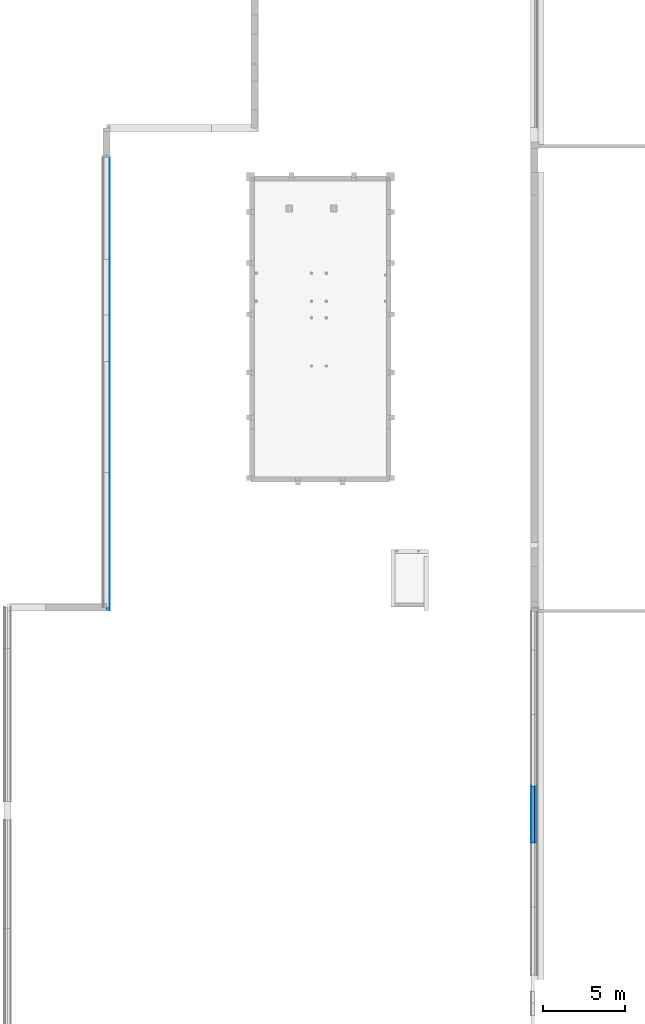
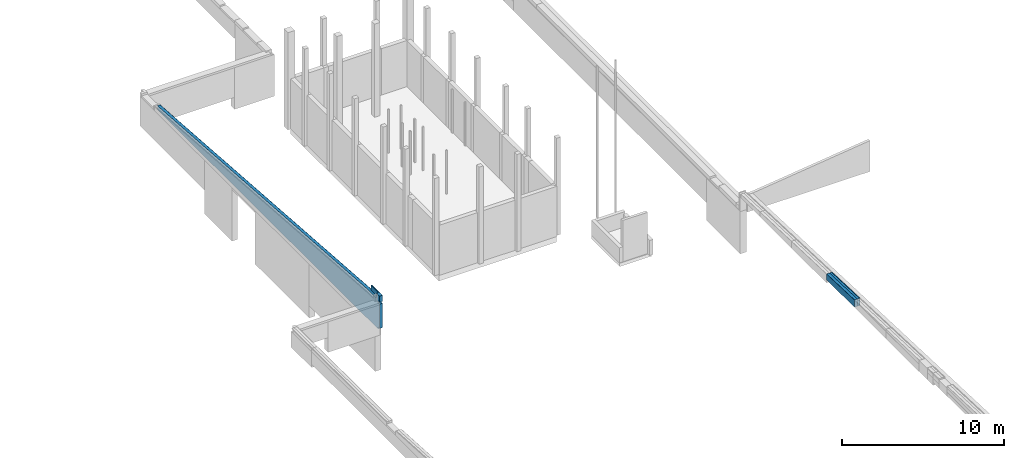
# One storey, part 13 of 17: 6 building element parts, 2 elements without a shape of their own.
"""IFC2X3 building model written with IfcOpenShell, lengths in millimetres."""

from ifc_helpers import new_model, entity, si_unit, converted_unit, derived_unit, money_unit, direction, frame, origin_with_axes, place, context, subcontext, project, spatial, polyline, outline, extrude, boolean, faceted_brep, material, type_object, element, aggregate, save


model = new_model("IFC2X3")

# Units and contexts
model_context = context("Model", 3, precision=0.01, world=origin_with_axes(), true_north=direction((0.0, 1.0)))
body_context = subcontext(model_context, "Body", "Model", "MODEL_VIEW")
ifc_project = project(units=[si_unit("LENGTHUNIT", "METRE", prefix="MILLI"), si_unit("AREAUNIT", "SQUARE_METRE"), si_unit("VOLUMEUNIT", "CUBIC_METRE"), converted_unit("PLANEANGLEUNIT", "DEGREE", entity("IfcPlaneAngleMeasure", 0.0174532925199), si_unit("PLANEANGLEUNIT", "RADIAN"), dimensions=[0, 0, 0, 0, 0, 0, 0]), si_unit("SOLIDANGLEUNIT", "STERADIAN"), money_unit("EUR"), converted_unit("TIMEUNIT", "Year", entity("IfcTimeMeasure", 31556926.0), si_unit("TIMEUNIT", "SECOND"), dimensions=[0, 0, 1, 0, 0, 0, 0]), si_unit("MASSUNIT", "GRAM", prefix="KILO"), si_unit("THERMODYNAMICTEMPERATUREUNIT", "DEGREE_CELSIUS"), si_unit("LUMINOUSINTENSITYUNIT", "LUMEN"), si_unit("ENERGYUNIT", "JOULE", prefix="MEGA"), derived_unit("THERMALCONDUCTANCEUNIT", [(si_unit("POWERUNIT", "WATT"), 1), (si_unit("LENGTHUNIT", "METRE"), -1), (si_unit("THERMODYNAMICTEMPERATUREUNIT", "KELVIN"), -1)]), derived_unit("SPECIFICHEATCAPACITYUNIT", [(si_unit("ENERGYUNIT", "JOULE"), 1), (si_unit("MASSUNIT", "GRAM", prefix="KILO"), -1), (si_unit("THERMODYNAMICTEMPERATUREUNIT", "KELVIN"), -1)]), derived_unit("MASSDENSITYUNIT", [(si_unit("MASSUNIT", "GRAM", prefix="KILO"), 1), (si_unit("VOLUMEUNIT", "CUBIC_METRE"), -1)])], contexts=[model_context])

# Site, building, storey
site_placement = place(None, origin_with_axes())
site = spatial("IfcSite", under=ifc_project, at=site_placement, Name="Puškini 31, Narva", CompositionType="ELEMENT")
building_placement = place(site_placement, origin_with_axes())
building = spatial("IfcBuilding", under=site, at=building_placement, Name="Narva Riigigümnaasium", CompositionType="ELEMENT")
storey_placement = place(building_placement, frame((0.0, 0.0, -6800.0), z_axis=(0.0, 0.0, 1.0), x_axis=(1.0, 0.0, 0.0)))
storey = spatial("IfcBuildingStorey", under=building, at=storey_placement, Name="0.korrus -6.8", CompositionType="ELEMENT", Elevation=-6800.0)

# Wall, building element parts
wall_type = type_object("IfcWallType", Name="G-VS-02 420", PredefinedType="NOTDEFINED")
wall_1_placement = place(storey_placement, frame((54200.000001, 184040.0, 4630.0), z_axis=(0.0, 0.0, 1.0), x_axis=(0.0, -1.0, 0.0)))
wall_1 = element("IfcWall", 1, at=wall_1_placement, inside=storey, type_object=wall_type, Name="Sisesein")
ifc_material_1 = material(Name="Salto-siseviimistlus")
building_element_part_1_placement = place(wall_1_placement, origin_with_axes())
building_element_part_1 = element("IfcBuildingElementPart", 2, at=building_element_part_1_placement, material=ifc_material_1, Name="Salto-siseviimistlus", context=body_context, shape_type="CSG", body=[
    boolean("DIFFERENCE", boolean("DIFFERENCE", boolean("DIFFERENCE", boolean("DIFFERENCE", boolean("DIFFERENCE", extrude(outline(polyline([(0.0, -210.0), (3454.84872819, -210.0), (3454.84872819, -200.0), (0.0, -200.0), (0.0, -210.0)])), origin_with_axes(), (0.0, 0.0, 1.0), 577.017657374), faceted_brep([(3454.84872819, -200.0, 540.0), (2926.61023797, -200.0, 540.0), (0.0, -200.0, 427.970114), (0.0, -200.0, 577.017657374), (3454.84872819, -200.0, 577.017657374), (3454.84872819, -210.0, 540.0), (2926.61023797, -210.0, 540.0), (0.0, -210.0, 427.970114), (0.0, -210.0, 577.017657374), (3454.84872819, -210.0, 577.017657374)], [[[0, 1, 2, 3, 4]], [[1, 0, 5, 6]], [[7, 2, 1, 6]], [[2, 7, 8, 3]], [[3, 8, 9, 4]], [[5, 0, 4, 9]], [[6, 5, 9, 8, 7]]])), faceted_brep([(3454.84872819, 0.0, 560.220833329), (0.0, 0.0, 427.970114), (0.0, 0.0, 577.017657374), (3454.84872819, 0.0, 577.017657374), (0.0, -200.0, 427.970114), (3454.84872819, -200.0, 560.220833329), (2926.61023797, -200.0, 540.0), (0.0, -200.0, 577.017657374), (3454.84872819, -200.0, 577.017657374)], [[[0, 1, 2, 3]], [[4, 1, 0, 5, 6]], [[1, 4, 7, 2]], [[2, 7, 8, 3]], [[5, 0, 3, 8]], [[6, 5, 8, 7, 4]]])), faceted_brep([(3454.84872819, 150.0, 560.220833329), (0.0, 150.0, 427.970114), (0.0, 150.0, 577.017657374), (3454.84872819, 150.0, 577.017657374), (0.0, 0.0, 427.970114), (3454.84872819, 0.0, 560.220833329), (0.0, 0.0, 577.017657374), (3454.84872819, 0.0, 577.017657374)], [[[0, 1, 2, 3]], [[4, 1, 0, 5]], [[1, 4, 6, 2]], [[2, 6, 7, 3]], [[5, 0, 3, 7]], [[4, 5, 7, 6]]])), faceted_brep([(3454.84872819, 200.0, 560.220833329), (0.0, 200.0, 427.970114), (0.0, 200.0, 577.017657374), (3454.84872819, 200.0, 577.017657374), (0.0, 150.0, 427.970114), (3454.84872819, 150.0, 560.220833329), (0.0, 150.0, 577.017657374), (3454.84872819, 150.0, 577.017657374)], [[[0, 1, 2, 3]], [[4, 1, 0, 5]], [[1, 4, 6, 2]], [[2, 6, 7, 3]], [[5, 0, 3, 7]], [[4, 5, 7, 6]]])), faceted_brep([(3454.84872819, 210.0, 560.220833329), (0.0, 210.0, 427.970114), (0.0, 210.0, 577.017657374), (3454.84872819, 210.0, 577.017657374), (0.0, 200.0, 427.970114), (3454.84872819, 200.0, 560.220833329), (0.0, 200.0, 577.017657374), (3454.84872819, 200.0, 577.017657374)], [[[0, 1, 2, 3]], [[4, 1, 0, 5]], [[1, 4, 6, 2]], [[2, 6, 7, 3]], [[5, 0, 3, 7]], [[4, 5, 7, 6]]])),
])
ifc_material_2 = material(Name="Betoon element")
building_element_part_2_placement = place(wall_1_placement, origin_with_axes())
building_element_part_2 = element("IfcBuildingElementPart", 3, at=building_element_part_2_placement, material=ifc_material_2, Name="Betoon element", context=body_context, shape_type="CSG", body=[
    boolean("DIFFERENCE", boolean("DIFFERENCE", boolean("DIFFERENCE", boolean("DIFFERENCE", boolean("DIFFERENCE", extrude(outline(polyline([(0.0, -200.0), (3454.84872819, -200.0), (3454.84872819, 0.0), (0.0, 0.0), (0.0, -200.0)])), origin_with_axes(), (0.0, 0.0, 1.0), 577.017657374), faceted_brep([(3454.84872819, -200.0, 540.0), (2926.61023797, -200.0, 540.0), (0.0, -200.0, 427.970114), (0.0, -200.0, 577.017657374), (3454.84872819, -200.0, 577.017657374), (3454.84872819, -210.0, 540.0), (2926.61023797, -210.0, 540.0), (0.0, -210.0, 427.970114), (0.0, -210.0, 577.017657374), (3454.84872819, -210.0, 577.017657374)], [[[0, 1, 2, 3, 4]], [[1, 0, 5, 6]], [[7, 2, 1, 6]], [[2, 7, 8, 3]], [[3, 8, 9, 4]], [[5, 0, 4, 9]], [[6, 5, 9, 8, 7]]])), faceted_brep([(3454.84872819, 0.0, 560.220833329), (0.0, 0.0, 427.970114), (0.0, 0.0, 577.017657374), (3454.84872819, 0.0, 577.017657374), (0.0, -200.0, 427.970114), (3454.84872819, -200.0, 560.220833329), (2926.61023797, -200.0, 540.0), (0.0, -200.0, 577.017657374), (3454.84872819, -200.0, 577.017657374)], [[[0, 1, 2, 3]], [[4, 1, 0, 5, 6]], [[1, 4, 7, 2]], [[2, 7, 8, 3]], [[5, 0, 3, 8]], [[6, 5, 8, 7, 4]]])), faceted_brep([(3454.84872819, 150.0, 560.220833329), (0.0, 150.0, 427.970114), (0.0, 150.0, 577.017657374), (3454.84872819, 150.0, 577.017657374), (0.0, 0.0, 427.970114), (3454.84872819, 0.0, 560.220833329), (0.0, 0.0, 577.017657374), (3454.84872819, 0.0, 577.017657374)], [[[0, 1, 2, 3]], [[4, 1, 0, 5]], [[1, 4, 6, 2]], [[2, 6, 7, 3]], [[5, 0, 3, 7]], [[4, 5, 7, 6]]])), faceted_brep([(3454.84872819, 200.0, 560.220833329), (0.0, 200.0, 427.970114), (0.0, 200.0, 577.017657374), (3454.84872819, 200.0, 577.017657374), (0.0, 150.0, 427.970114), (3454.84872819, 150.0, 560.220833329), (0.0, 150.0, 577.017657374), (3454.84872819, 150.0, 577.017657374)], [[[0, 1, 2, 3]], [[4, 1, 0, 5]], [[1, 4, 6, 2]], [[2, 6, 7, 3]], [[5, 0, 3, 7]], [[4, 5, 7, 6]]])), faceted_brep([(3454.84872819, 210.0, 560.220833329), (0.0, 210.0, 427.970114), (0.0, 210.0, 577.017657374), (3454.84872819, 210.0, 577.017657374), (0.0, 200.0, 427.970114), (3454.84872819, 200.0, 560.220833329), (0.0, 200.0, 577.017657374), (3454.84872819, 200.0, 577.017657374)], [[[0, 1, 2, 3]], [[4, 1, 0, 5]], [[1, 4, 6, 2]], [[2, 6, 7, 3]], [[5, 0, 3, 7]], [[4, 5, 7, 6]]])),
])
ifc_material_3 = material(Name="Salto-PIR soojustus")
building_element_part_3_placement = place(wall_1_placement, origin_with_axes())
building_element_part_3 = element("IfcBuildingElementPart", 4, at=building_element_part_3_placement, material=ifc_material_3, Name="Salto-PIR soojustus", context=body_context, shape_type="CSG", body=[
    boolean("DIFFERENCE", boolean("DIFFERENCE", boolean("DIFFERENCE", boolean("DIFFERENCE", boolean("DIFFERENCE", extrude(outline(polyline([(0.0, 0.0), (3454.84872819, 0.0), (3454.84872819, 150.0), (0.0, 150.0), (0.0, 0.0)])), origin_with_axes(), (0.0, 0.0, 1.0), 577.017657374), faceted_brep([(3454.84872819, -200.0, 540.0), (2926.61023797, -200.0, 540.0), (0.0, -200.0, 427.970114), (0.0, -200.0, 577.017657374), (3454.84872819, -200.0, 577.017657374), (3454.84872819, -210.0, 540.0), (2926.61023797, -210.0, 540.0), (0.0, -210.0, 427.970114), (0.0, -210.0, 577.017657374), (3454.84872819, -210.0, 577.017657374)], [[[0, 1, 2, 3, 4]], [[1, 0, 5, 6]], [[7, 2, 1, 6]], [[2, 7, 8, 3]], [[3, 8, 9, 4]], [[5, 0, 4, 9]], [[6, 5, 9, 8, 7]]])), faceted_brep([(3454.84872819, 0.0, 560.220833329), (0.0, 0.0, 427.970114), (0.0, 0.0, 577.017657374), (3454.84872819, 0.0, 577.017657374), (0.0, -200.0, 427.970114), (3454.84872819, -200.0, 560.220833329), (2926.61023797, -200.0, 540.0), (0.0, -200.0, 577.017657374), (3454.84872819, -200.0, 577.017657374)], [[[0, 1, 2, 3]], [[4, 1, 0, 5, 6]], [[1, 4, 7, 2]], [[2, 7, 8, 3]], [[5, 0, 3, 8]], [[6, 5, 8, 7, 4]]])), faceted_brep([(3454.84872819, 150.0, 560.220833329), (0.0, 150.0, 427.970114), (0.0, 150.0, 577.017657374), (3454.84872819, 150.0, 577.017657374), (0.0, 0.0, 427.970114), (3454.84872819, 0.0, 560.220833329), (0.0, 0.0, 577.017657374), (3454.84872819, 0.0, 577.017657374)], [[[0, 1, 2, 3]], [[4, 1, 0, 5]], [[1, 4, 6, 2]], [[2, 6, 7, 3]], [[5, 0, 3, 7]], [[4, 5, 7, 6]]])), faceted_brep([(3454.84872819, 200.0, 560.220833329), (0.0, 200.0, 427.970114), (0.0, 200.0, 577.017657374), (3454.84872819, 200.0, 577.017657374), (0.0, 150.0, 427.970114), (3454.84872819, 150.0, 560.220833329), (0.0, 150.0, 577.017657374), (3454.84872819, 150.0, 577.017657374)], [[[0, 1, 2, 3]], [[4, 1, 0, 5]], [[1, 4, 6, 2]], [[2, 6, 7, 3]], [[5, 0, 3, 7]], [[4, 5, 7, 6]]])), faceted_brep([(3454.84872819, 210.0, 560.220833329), (0.0, 210.0, 427.970114), (0.0, 210.0, 577.017657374), (3454.84872819, 210.0, 577.017657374), (0.0, 200.0, 427.970114), (3454.84872819, 200.0, 560.220833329), (0.0, 200.0, 577.017657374), (3454.84872819, 200.0, 577.017657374)], [[[0, 1, 2, 3]], [[4, 1, 0, 5]], [[1, 4, 6, 2]], [[2, 6, 7, 3]], [[5, 0, 3, 7]], [[4, 5, 7, 6]]])),
])
building_element_part_4_placement = place(wall_1_placement, origin_with_axes())
building_element_part_4 = element("IfcBuildingElementPart", 5, at=building_element_part_4_placement, material=ifc_material_3, Name="Salto-PIR soojustus", context=body_context, shape_type="CSG", body=[
    boolean("DIFFERENCE", boolean("DIFFERENCE", boolean("DIFFERENCE", boolean("DIFFERENCE", boolean("DIFFERENCE", extrude(outline(polyline([(0.0, 150.0), (3454.84872819, 150.0), (3454.84872819, 200.0), (0.0, 200.0), (0.0, 150.0)])), origin_with_axes(), (0.0, 0.0, 1.0), 577.017657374), faceted_brep([(3454.84872819, -200.0, 540.0), (2926.61023797, -200.0, 540.0), (0.0, -200.0, 427.970114), (0.0, -200.0, 577.017657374), (3454.84872819, -200.0, 577.017657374), (3454.84872819, -210.0, 540.0), (2926.61023797, -210.0, 540.0), (0.0, -210.0, 427.970114), (0.0, -210.0, 577.017657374), (3454.84872819, -210.0, 577.017657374)], [[[0, 1, 2, 3, 4]], [[1, 0, 5, 6]], [[7, 2, 1, 6]], [[2, 7, 8, 3]], [[3, 8, 9, 4]], [[5, 0, 4, 9]], [[6, 5, 9, 8, 7]]])), faceted_brep([(3454.84872819, 0.0, 560.220833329), (0.0, 0.0, 427.970114), (0.0, 0.0, 577.017657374), (3454.84872819, 0.0, 577.017657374), (0.0, -200.0, 427.970114), (3454.84872819, -200.0, 560.220833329), (2926.61023797, -200.0, 540.0), (0.0, -200.0, 577.017657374), (3454.84872819, -200.0, 577.017657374)], [[[0, 1, 2, 3]], [[4, 1, 0, 5, 6]], [[1, 4, 7, 2]], [[2, 7, 8, 3]], [[5, 0, 3, 8]], [[6, 5, 8, 7, 4]]])), faceted_brep([(3454.84872819, 150.0, 560.220833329), (0.0, 150.0, 427.970114), (0.0, 150.0, 577.017657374), (3454.84872819, 150.0, 577.017657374), (0.0, 0.0, 427.970114), (3454.84872819, 0.0, 560.220833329), (0.0, 0.0, 577.017657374), (3454.84872819, 0.0, 577.017657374)], [[[0, 1, 2, 3]], [[4, 1, 0, 5]], [[1, 4, 6, 2]], [[2, 6, 7, 3]], [[5, 0, 3, 7]], [[4, 5, 7, 6]]])), faceted_brep([(3454.84872819, 200.0, 560.220833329), (0.0, 200.0, 427.970114), (0.0, 200.0, 577.017657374), (3454.84872819, 200.0, 577.017657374), (0.0, 150.0, 427.970114), (3454.84872819, 150.0, 560.220833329), (0.0, 150.0, 577.017657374), (3454.84872819, 150.0, 577.017657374)], [[[0, 1, 2, 3]], [[4, 1, 0, 5]], [[1, 4, 6, 2]], [[2, 6, 7, 3]], [[5, 0, 3, 7]], [[4, 5, 7, 6]]])), faceted_brep([(3454.84872819, 210.0, 560.220833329), (0.0, 210.0, 427.970114), (0.0, 210.0, 577.017657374), (3454.84872819, 210.0, 577.017657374), (0.0, 200.0, 427.970114), (3454.84872819, 200.0, 560.220833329), (0.0, 200.0, 577.017657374), (3454.84872819, 200.0, 577.017657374)], [[[0, 1, 2, 3]], [[4, 1, 0, 5]], [[1, 4, 6, 2]], [[2, 6, 7, 3]], [[5, 0, 3, 7]], [[4, 5, 7, 6]]])),
])
aggregate(wall_1, [building_element_part_1, building_element_part_2, building_element_part_3, building_element_part_4])

wall_2_placement = place(storey_placement, frame((28200.0401775, 222218.741711, 3350.0), z_axis=(0.0, 0.0, 1.0), x_axis=(0.0, -1.0, 0.0)))
wall_2 = element("IfcWall", 6, at=wall_2_placement, inside=storey, type_object=wall_type, Name="Sisesein")
building_element_part_5_placement = place(wall_2_placement, origin_with_axes())
solid_1 = boolean("DIFFERENCE", boolean("DIFFERENCE", boolean("DIFFERENCE", boolean("DIFFERENCE", boolean("DIFFERENCE", boolean("DIFFERENCE", boolean("DIFFERENCE", boolean("DIFFERENCE", extrude(outline(polyline([(0.0, 200.0), (27568.7417106, 200.0), (27568.7417106, 210.0), (0.0, 210.0), (0.0, 200.0)])), origin_with_axes(), (0.0, 0.0, 1.0), 2585.0), faceted_brep([(24143.7420091, 210.0, 149.0), (22983.7419947, 210.0, 149.0), (22983.7419947, 210.0, 150.0), (24143.7420091, 210.0, 150.0), (24143.7420091, 209.981881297, 149.0), (22983.7419947, 209.947273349, 149.0), (22983.7419947, 209.947273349, 150.0), (24143.7420091, 209.981881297, 150.0)], [[[0, 1, 2, 3]], [[1, 0, 4, 5]], [[2, 1, 5, 6]], [[3, 2, 6, 7]], [[0, 3, 7, 4]], [[6, 5, 4, 7]]])), faceted_brep([(17534.3056808, 210.0, 149.0), (16258.7420003, 210.0, 149.0), (16258.7420003, 210.0, 150.0), (17534.3056808, 210.0, 150.0), (17534.3056808, 209.784655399, 149.0), (16258.7420003, 209.746602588, 149.0), (16258.7420003, 209.746602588, 150.0), (17534.3056808, 209.784655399, 150.0)], [[[0, 1, 2, 3]], [[1, 0, 4, 5]], [[2, 1, 5, 6]], [[3, 2, 6, 7]], [[0, 3, 7, 4]], [[6, 5, 4, 7]]])), faceted_brep([(0.0, 200.0, 150.0), (0.0, 210.0, 150.0), (0.0, 210.0, 0.0), (0.0, 200.0, 0.0), (938.741711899, 210.0, 150.0), (938.741755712, 199.999997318, 150.0), (938.741755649, 209.289465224, 150.0), (27518.7417109, 210.0, 2130.0), (27518.7417109, 210.0, 2585.0), (27568.7417106, 210.0, 2585.0), (27568.7417106, 210.0, 0.0), (938.741755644, 210.0, 149.0), (938.741757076, 210.0, 140.0), (17568.7419679, 210.0, 140.0), (17568.7419679, 210.0, 149.0), (17568.7419679, 210.0, 150.0), (22958.7419947, 210.0, 150.0), (22958.7419947, 210.0, 140.0), (27318.7417106, 210.0, 140.0), (27318.7417106, 210.0, 150.000002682), (27518.7417109, 210.0, 150.000002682), (27518.7417109, 210.0, 1980.0), (27318.7417106, 210.0, 1980.0), (27318.7417106, 210.0, 2130.0), (27568.7417106, 200.0, 0.0), (27568.7417106, 200.0, 2585.0), (27518.7417109, 200.0, 2585.0), (27518.7417109, 200.0, 2130.0), (27318.7417106, 199.999997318, 2130.0), (27318.7417106, 199.999997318, 1980.0), (27518.7417109, 200.0, 1980.0), (27518.7417109, 199.999997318, 150.000002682), (27318.7417106, 199.999997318, 150.000002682), (27318.7417106, 199.999997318, 140.0), (22958.7419947, 199.999997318, 140.0), (22958.7419947, 199.999997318, 150.0), (17568.7419679, 199.999997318, 150.0), (17568.7419679, 199.999997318, 140.0), (938.741757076, 199.999997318, 140.0), (938.741755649, 209.289465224, 149.0), (17568.7419679, 209.785692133, 150.0), (17568.7419679, 209.785692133, 149.0)], [[[0, 1, 2, 3]], [[4, 1, 0, 5, 6]], [[7, 8, 9, 10, 2, 1, 4, 11, 12, 13, 14, 15, 16, 17, 18, 19, 20, 21, 22, 23]], [[24, 3, 2, 10]], [[5, 0, 3, 24, 25, 26, 27, 28, 29, 30, 31, 32, 33, 34, 35, 36, 37, 38]], [[12, 11, 39, 6, 5, 38]], [[11, 4, 6, 39]], [[26, 8, 7, 27]], [[8, 26, 25, 9]], [[25, 24, 10, 9]], [[13, 12, 38, 37]], [[14, 13, 37, 36, 40, 41]], [[15, 14, 41, 40]], [[16, 15, 40, 36, 35]], [[17, 16, 35, 34]], [[18, 17, 34, 33]], [[19, 18, 33, 32]], [[20, 19, 32, 31]], [[21, 20, 31, 30]], [[22, 21, 30, 29]], [[23, 22, 29, 28]], [[7, 23, 28, 27]]])), faceted_brep([(26218.9774093, 210.0, 2585.0), (26218.9774093, 210.0, 2224.59009685), (0.0, 210.0, 300.403404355), (0.0, 210.0, 2585.0), (26218.9774093, 200.0, 2585.0), (26218.9774093, 200.0, 2224.59009685), (0.0, 200.0, 300.403404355), (0.0, 200.0, 2585.0)], [[[0, 1, 2, 3]], [[1, 0, 4, 5]], [[6, 2, 1, 5]], [[2, 6, 7, 3]], [[4, 0, 3, 7]], [[5, 4, 7, 6]]])), faceted_brep([(27518.7417109, 200.0, 1980.0), (27318.7417106, 199.999997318, 1980.0), (27318.7417106, 199.999997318, 2130.0), (27518.7417109, 200.0, 2130.0), (27518.7417109, 200.0, 2585.0), (27568.7417106, 200.0, 2585.0), (27568.7417106, 200.0, 0.0), (27318.7417106, 199.999997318, 0.0), (27318.7417106, 199.999997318, 150.000002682), (27518.7417109, 199.999997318, 150.000002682), (27518.7417109, 0.0, 1980.0), (27318.7417109, 0.0, 1980.0), (27318.7417109, 0.0, 2130.0), (27518.7417109, 0.0, 2130.0), (27518.7417109, 0.0, 2585.0), (27568.7417106, 0.0, 2585.0), (27568.7417106, 0.0, 0.0), (27318.7417106, 0.0, 0.0), (27318.7417106, 0.0, 150.000002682), (27518.7417109, 0.0, 150.000002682)], [[[0, 1, 2, 3, 4, 5, 6, 7, 8, 9]], [[10, 11, 1, 0]], [[11, 12, 2, 1]], [[12, 13, 3, 2]], [[14, 4, 3, 13]], [[4, 14, 15, 5]], [[15, 16, 6, 5]], [[17, 7, 6, 16]], [[7, 17, 18, 8]], [[18, 19, 9, 8]], [[19, 10, 0, 9]], [[18, 17, 16, 15, 14, 13, 12, 11, 10, 19]]])), faceted_brep([(26218.9774093, 200.0, 2585.0), (26218.9774093, 200.0, 2224.59009685), (0.0, 200.0, 300.403404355), (0.0, 200.0, 2585.0), (26218.9774093, 123.503081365, 2585.0), (26218.9774093, 123.503081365, 2224.59009685), (0.0, 0.0, 300.403404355), (26218.9774093, 0.0, 2224.59009685), (0.0, 0.0, 2585.0), (27142.7417107, 0.0, 2585.0), (27142.7417107, 123.503081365, 2585.0), (27142.7417107, 123.503081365, 2224.59009685), (27142.7417107, 0.0, 2224.59009685)], [[[0, 1, 2, 3]], [[1, 0, 4, 5]], [[6, 2, 1, 5, 7]], [[2, 6, 8, 3]], [[4, 0, 3, 8, 9, 10]], [[4, 10, 11, 5]], [[12, 7, 5, 11]], [[12, 9, 8, 6, 7]], [[10, 9, 12, 11]]])), faceted_brep([(27318.7417109, 0.0, 1980.0), (27168.7417106, 0.0, 1980.0), (27168.7417106, 0.0, 2130.0), (27318.7417109, 0.0, 2130.0), (27318.7417109, 0.0, 2585.0), (27568.7417106, 0.0, 2585.0), (27568.7417106, 0.0, 0.0), (27318.7417106, 0.0, 0.0), (27318.7417109, -150.0, 1980.0), (27168.7417106, -150.0, 1980.0), (27168.7417106, -150.0, 2130.0), (27318.7417109, -150.0, 2130.0), (27318.7417109, -150.0, 2585.0), (27568.7417106, -150.0, 2585.0), (27568.7417106, -150.0, 0.0), (27318.7417106, -150.0, 0.0)], [[[0, 1, 2, 3, 4, 5, 6, 7]], [[1, 0, 8, 9]], [[2, 1, 9, 10]], [[3, 2, 10, 11]], [[12, 4, 3, 11]], [[4, 12, 13, 5]], [[13, 14, 6, 5]], [[15, 7, 6, 14]], [[0, 7, 15, 8]], [[8, 15, 14, 13, 12, 11, 10, 9]]])), faceted_brep([(27142.7417107, 0.0, 2224.59009685), (26218.9774093, 0.0, 2224.59009685), (0.0, 0.0, 300.403404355), (0.0, 0.0, 2585.0), (27142.7417107, 0.0, 2585.0), (27142.7417107, -150.0, 2224.59009685), (26218.9774093, -150.0, 2224.59009685), (0.0, -150.0, 300.403404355), (0.0, -150.0, 2585.0), (27142.7417107, -150.0, 2585.0)], [[[0, 1, 2, 3, 4]], [[1, 0, 5, 6]], [[7, 2, 1, 6]], [[2, 7, 8, 3]], [[9, 4, 3, 8]], [[0, 4, 9, 5]], [[5, 9, 8, 7, 6]]]))
building_element_part_5 = element("IfcBuildingElementPart", 7, at=building_element_part_5_placement, material=ifc_material_1, Name="Salto-siseviimistlus", context=body_context, shape_type="CSG", body=[
    boolean("DIFFERENCE", boolean("DIFFERENCE", boolean("DIFFERENCE", boolean("DIFFERENCE", solid_1, faceted_brep([(27168.7417106, -150.0, 1980.0), (27118.7417106, -150.0, 1980.0), (27118.7417106, -150.0, 2130.0), (27168.7417106, -150.0, 2130.0), (27318.7417109, -150.0, 2130.0), (27318.7417109, -150.0, 2585.0), (27568.7417106, -150.0, 2585.0), (27568.7417106, -150.0, 0.0), (27318.7417106, -150.0, 0.0), (27318.7417109, -150.0, 1980.0), (27318.7417109, -199.999998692, 1980.0), (27118.7417106, -199.999997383, 1980.0), (27118.7417106, -199.999997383, 2130.0), (27318.7417109, -199.999998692, 2130.0), (27318.7417109, -200.0, 2585.0), (27568.7417106, -200.0, 2585.0), (27568.7417106, -200.0, 0.0), (27318.7417106, -199.999997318, 0.0)], [[[0, 1, 2, 3, 4, 5, 6, 7, 8, 9]], [[1, 0, 9, 10, 11]], [[2, 1, 11, 12]], [[3, 2, 12, 13, 4]], [[14, 5, 4, 13]], [[5, 14, 15, 6]], [[15, 16, 7, 6]], [[17, 8, 7, 16]], [[9, 8, 17, 10]], [[10, 17, 16, 15, 14, 13, 12, 11]]])), faceted_brep([(27142.7417107, -150.0, 2224.59009685), (26218.9774093, -150.0, 2224.59009685), (0.0, -150.0, 300.403404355), (0.0, -150.0, 2585.0), (27142.7417107, -150.0, 2585.0), (27142.7417107, -200.0, 2224.59009685), (26218.9774093, -200.0, 2224.59009685), (0.0, -200.0, 300.403404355), (0.0, -200.0, 2585.0), (27142.7417107, -200.0, 2585.0)], [[[0, 1, 2, 3, 4]], [[1, 0, 5, 6]], [[7, 2, 1, 6]], [[2, 7, 8, 3]], [[9, 4, 3, 8]], [[0, 4, 9, 5]], [[5, 9, 8, 7, 6]]])), faceted_brep([(27108.7417106, -199.999997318, 1980.0), (27108.7417106, -199.999997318, 2130.0), (27318.7417109, -199.999998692, 2130.0), (27318.7417109, -200.0, 2585.0), (27568.7417106, -200.0, 2585.0), (27568.7417106, -200.0, 0.0), (27318.7417106, -199.999997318, 0.0), (27318.7417109, -199.999998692, 1980.0), (27108.7417106, -210.0, 1980.0), (27108.7417106, -210.0, 2130.0), (27318.7417109, -210.0, 2130.0), (27318.7417109, -210.0, 2585.0), (27568.7417106, -210.0, 2585.0), (27568.7417106, -210.0, 0.0), (27318.7417106, -210.0, 0.0), (27318.7417109, -210.0, 150.0), (27318.7417109, -210.0, 1980.0)], [[[0, 1, 2, 3, 4, 5, 6, 7]], [[1, 0, 8, 9]], [[1, 9, 10, 2]], [[11, 3, 2, 10]], [[3, 11, 12, 4]], [[12, 13, 5, 4]], [[14, 6, 5, 13]], [[6, 14, 15, 16, 7]], [[0, 7, 16, 8]], [[15, 14, 13, 12, 11, 10, 9, 8, 16]]])), faceted_brep([(27142.7417107, -200.0, 2224.59009685), (26218.9774093, -200.0, 2224.59009685), (0.0, -200.0, 300.403404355), (0.0, -200.0, 2585.0), (27142.7417107, -200.0, 2585.0), (27142.7417107, -210.0, 2224.59009685), (26218.9774093, -210.0, 2224.59009685), (0.0, -210.0, 300.403404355), (0.0, -210.0, 2585.0), (27142.7417107, -210.0, 2585.0)], [[[0, 1, 2, 3, 4]], [[1, 0, 5, 6]], [[7, 2, 1, 6]], [[2, 7, 8, 3]], [[9, 4, 3, 8]], [[0, 4, 9, 5]], [[5, 9, 8, 7, 6]]])),
])
building_element_part_6_placement = place(wall_2_placement, origin_with_axes())
solid_2 = boolean("DIFFERENCE", boolean("DIFFERENCE", boolean("DIFFERENCE", boolean("DIFFERENCE", boolean("DIFFERENCE", boolean("DIFFERENCE", boolean("DIFFERENCE", boolean("DIFFERENCE", extrude(outline(polyline([(0.0, 0.0), (27568.7417106, 0.0), (27568.7417106, 200.0), (0.0, 200.0), (0.0, 0.0)])), origin_with_axes(), (0.0, 0.0, 1.0), 2585.0), faceted_brep([(24143.7420091, 210.0, 149.0), (22983.7419947, 210.0, 149.0), (22983.7419947, 210.0, 150.0), (24143.7420091, 210.0, 150.0), (24143.7420091, 209.981881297, 149.0), (22983.7419947, 209.947273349, 149.0), (22983.7419947, 209.947273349, 150.0), (24143.7420091, 209.981881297, 150.0)], [[[0, 1, 2, 3]], [[1, 0, 4, 5]], [[2, 1, 5, 6]], [[3, 2, 6, 7]], [[0, 3, 7, 4]], [[6, 5, 4, 7]]])), faceted_brep([(17534.3056808, 210.0, 149.0), (16258.7420003, 210.0, 149.0), (16258.7420003, 210.0, 150.0), (17534.3056808, 210.0, 150.0), (17534.3056808, 209.784655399, 149.0), (16258.7420003, 209.746602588, 149.0), (16258.7420003, 209.746602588, 150.0), (17534.3056808, 209.784655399, 150.0)], [[[0, 1, 2, 3]], [[1, 0, 4, 5]], [[2, 1, 5, 6]], [[3, 2, 6, 7]], [[0, 3, 7, 4]], [[6, 5, 4, 7]]])), faceted_brep([(0.0, 200.0, 150.0), (0.0, 210.0, 150.0), (0.0, 210.0, 0.0), (0.0, 200.0, 0.0), (938.741711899, 210.0, 150.0), (938.741755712, 199.999997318, 150.0), (938.741755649, 209.289465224, 150.0), (27518.7417109, 210.0, 2130.0), (27518.7417109, 210.0, 2585.0), (27568.7417106, 210.0, 2585.0), (27568.7417106, 210.0, 0.0), (938.741755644, 210.0, 149.0), (938.741757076, 210.0, 140.0), (17568.7419679, 210.0, 140.0), (17568.7419679, 210.0, 149.0), (17568.7419679, 210.0, 150.0), (22958.7419947, 210.0, 150.0), (22958.7419947, 210.0, 140.0), (27318.7417106, 210.0, 140.0), (27318.7417106, 210.0, 150.000002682), (27518.7417109, 210.0, 150.000002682), (27518.7417109, 210.0, 1980.0), (27318.7417106, 210.0, 1980.0), (27318.7417106, 210.0, 2130.0), (27568.7417106, 200.0, 0.0), (27568.7417106, 200.0, 2585.0), (27518.7417109, 200.0, 2585.0), (27518.7417109, 200.0, 2130.0), (27318.7417106, 199.999997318, 2130.0), (27318.7417106, 199.999997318, 1980.0), (27518.7417109, 200.0, 1980.0), (27518.7417109, 199.999997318, 150.000002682), (27318.7417106, 199.999997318, 150.000002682), (27318.7417106, 199.999997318, 140.0), (22958.7419947, 199.999997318, 140.0), (22958.7419947, 199.999997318, 150.0), (17568.7419679, 199.999997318, 150.0), (17568.7419679, 199.999997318, 140.0), (938.741757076, 199.999997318, 140.0), (938.741755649, 209.289465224, 149.0), (17568.7419679, 209.785692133, 150.0), (17568.7419679, 209.785692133, 149.0)], [[[0, 1, 2, 3]], [[4, 1, 0, 5, 6]], [[7, 8, 9, 10, 2, 1, 4, 11, 12, 13, 14, 15, 16, 17, 18, 19, 20, 21, 22, 23]], [[24, 3, 2, 10]], [[5, 0, 3, 24, 25, 26, 27, 28, 29, 30, 31, 32, 33, 34, 35, 36, 37, 38]], [[12, 11, 39, 6, 5, 38]], [[11, 4, 6, 39]], [[26, 8, 7, 27]], [[8, 26, 25, 9]], [[25, 24, 10, 9]], [[13, 12, 38, 37]], [[14, 13, 37, 36, 40, 41]], [[15, 14, 41, 40]], [[16, 15, 40, 36, 35]], [[17, 16, 35, 34]], [[18, 17, 34, 33]], [[19, 18, 33, 32]], [[20, 19, 32, 31]], [[21, 20, 31, 30]], [[22, 21, 30, 29]], [[23, 22, 29, 28]], [[7, 23, 28, 27]]])), faceted_brep([(26218.9774093, 210.0, 2585.0), (26218.9774093, 210.0, 2224.59009685), (0.0, 210.0, 300.403404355), (0.0, 210.0, 2585.0), (26218.9774093, 200.0, 2585.0), (26218.9774093, 200.0, 2224.59009685), (0.0, 200.0, 300.403404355), (0.0, 200.0, 2585.0)], [[[0, 1, 2, 3]], [[1, 0, 4, 5]], [[6, 2, 1, 5]], [[2, 6, 7, 3]], [[4, 0, 3, 7]], [[5, 4, 7, 6]]])), faceted_brep([(27518.7417109, 200.0, 1980.0), (27318.7417106, 199.999997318, 1980.0), (27318.7417106, 199.999997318, 2130.0), (27518.7417109, 200.0, 2130.0), (27518.7417109, 200.0, 2585.0), (27568.7417106, 200.0, 2585.0), (27568.7417106, 200.0, 0.0), (27318.7417106, 199.999997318, 0.0), (27318.7417106, 199.999997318, 150.000002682), (27518.7417109, 199.999997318, 150.000002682), (27518.7417109, 0.0, 1980.0), (27318.7417109, 0.0, 1980.0), (27318.7417109, 0.0, 2130.0), (27518.7417109, 0.0, 2130.0), (27518.7417109, 0.0, 2585.0), (27568.7417106, 0.0, 2585.0), (27568.7417106, 0.0, 0.0), (27318.7417106, 0.0, 0.0), (27318.7417106, 0.0, 150.000002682), (27518.7417109, 0.0, 150.000002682)], [[[0, 1, 2, 3, 4, 5, 6, 7, 8, 9]], [[10, 11, 1, 0]], [[11, 12, 2, 1]], [[12, 13, 3, 2]], [[14, 4, 3, 13]], [[4, 14, 15, 5]], [[15, 16, 6, 5]], [[17, 7, 6, 16]], [[7, 17, 18, 8]], [[18, 19, 9, 8]], [[19, 10, 0, 9]], [[18, 17, 16, 15, 14, 13, 12, 11, 10, 19]]])), faceted_brep([(26218.9774093, 200.0, 2585.0), (26218.9774093, 200.0, 2224.59009685), (0.0, 200.0, 300.403404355), (0.0, 200.0, 2585.0), (26218.9774093, 123.503081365, 2585.0), (26218.9774093, 123.503081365, 2224.59009685), (0.0, 0.0, 300.403404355), (26218.9774093, 0.0, 2224.59009685), (0.0, 0.0, 2585.0), (27142.7417107, 0.0, 2585.0), (27142.7417107, 123.503081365, 2585.0), (27142.7417107, 123.503081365, 2224.59009685), (27142.7417107, 0.0, 2224.59009685)], [[[0, 1, 2, 3]], [[1, 0, 4, 5]], [[6, 2, 1, 5, 7]], [[2, 6, 8, 3]], [[4, 0, 3, 8, 9, 10]], [[4, 10, 11, 5]], [[12, 7, 5, 11]], [[12, 9, 8, 6, 7]], [[10, 9, 12, 11]]])), faceted_brep([(27318.7417109, 0.0, 1980.0), (27168.7417106, 0.0, 1980.0), (27168.7417106, 0.0, 2130.0), (27318.7417109, 0.0, 2130.0), (27318.7417109, 0.0, 2585.0), (27568.7417106, 0.0, 2585.0), (27568.7417106, 0.0, 0.0), (27318.7417106, 0.0, 0.0), (27318.7417109, -150.0, 1980.0), (27168.7417106, -150.0, 1980.0), (27168.7417106, -150.0, 2130.0), (27318.7417109, -150.0, 2130.0), (27318.7417109, -150.0, 2585.0), (27568.7417106, -150.0, 2585.0), (27568.7417106, -150.0, 0.0), (27318.7417106, -150.0, 0.0)], [[[0, 1, 2, 3, 4, 5, 6, 7]], [[1, 0, 8, 9]], [[2, 1, 9, 10]], [[3, 2, 10, 11]], [[12, 4, 3, 11]], [[4, 12, 13, 5]], [[13, 14, 6, 5]], [[15, 7, 6, 14]], [[0, 7, 15, 8]], [[8, 15, 14, 13, 12, 11, 10, 9]]])), faceted_brep([(27142.7417107, 0.0, 2224.59009685), (26218.9774093, 0.0, 2224.59009685), (0.0, 0.0, 300.403404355), (0.0, 0.0, 2585.0), (27142.7417107, 0.0, 2585.0), (27142.7417107, -150.0, 2224.59009685), (26218.9774093, -150.0, 2224.59009685), (0.0, -150.0, 300.403404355), (0.0, -150.0, 2585.0), (27142.7417107, -150.0, 2585.0)], [[[0, 1, 2, 3, 4]], [[1, 0, 5, 6]], [[7, 2, 1, 6]], [[2, 7, 8, 3]], [[9, 4, 3, 8]], [[0, 4, 9, 5]], [[5, 9, 8, 7, 6]]]))
building_element_part_6 = element("IfcBuildingElementPart", 8, at=building_element_part_6_placement, material=ifc_material_2, Name="Betoon element", context=body_context, shape_type="CSG", body=[
    boolean("DIFFERENCE", boolean("DIFFERENCE", boolean("DIFFERENCE", boolean("DIFFERENCE", solid_2, faceted_brep([(27168.7417106, -150.0, 1980.0), (27118.7417106, -150.0, 1980.0), (27118.7417106, -150.0, 2130.0), (27168.7417106, -150.0, 2130.0), (27318.7417109, -150.0, 2130.0), (27318.7417109, -150.0, 2585.0), (27568.7417106, -150.0, 2585.0), (27568.7417106, -150.0, 0.0), (27318.7417106, -150.0, 0.0), (27318.7417109, -150.0, 1980.0), (27318.7417109, -199.999998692, 1980.0), (27118.7417106, -199.999997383, 1980.0), (27118.7417106, -199.999997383, 2130.0), (27318.7417109, -199.999998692, 2130.0), (27318.7417109, -200.0, 2585.0), (27568.7417106, -200.0, 2585.0), (27568.7417106, -200.0, 0.0), (27318.7417106, -199.999997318, 0.0)], [[[0, 1, 2, 3, 4, 5, 6, 7, 8, 9]], [[1, 0, 9, 10, 11]], [[2, 1, 11, 12]], [[3, 2, 12, 13, 4]], [[14, 5, 4, 13]], [[5, 14, 15, 6]], [[15, 16, 7, 6]], [[17, 8, 7, 16]], [[9, 8, 17, 10]], [[10, 17, 16, 15, 14, 13, 12, 11]]])), faceted_brep([(27142.7417107, -150.0, 2224.59009685), (26218.9774093, -150.0, 2224.59009685), (0.0, -150.0, 300.403404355), (0.0, -150.0, 2585.0), (27142.7417107, -150.0, 2585.0), (27142.7417107, -200.0, 2224.59009685), (26218.9774093, -200.0, 2224.59009685), (0.0, -200.0, 300.403404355), (0.0, -200.0, 2585.0), (27142.7417107, -200.0, 2585.0)], [[[0, 1, 2, 3, 4]], [[1, 0, 5, 6]], [[7, 2, 1, 6]], [[2, 7, 8, 3]], [[9, 4, 3, 8]], [[0, 4, 9, 5]], [[5, 9, 8, 7, 6]]])), faceted_brep([(27108.7417106, -199.999997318, 1980.0), (27108.7417106, -199.999997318, 2130.0), (27318.7417109, -199.999998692, 2130.0), (27318.7417109, -200.0, 2585.0), (27568.7417106, -200.0, 2585.0), (27568.7417106, -200.0, 0.0), (27318.7417106, -199.999997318, 0.0), (27318.7417109, -199.999998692, 1980.0), (27108.7417106, -210.0, 1980.0), (27108.7417106, -210.0, 2130.0), (27318.7417109, -210.0, 2130.0), (27318.7417109, -210.0, 2585.0), (27568.7417106, -210.0, 2585.0), (27568.7417106, -210.0, 0.0), (27318.7417106, -210.0, 0.0), (27318.7417109, -210.0, 150.0), (27318.7417109, -210.0, 1980.0)], [[[0, 1, 2, 3, 4, 5, 6, 7]], [[1, 0, 8, 9]], [[1, 9, 10, 2]], [[11, 3, 2, 10]], [[3, 11, 12, 4]], [[12, 13, 5, 4]], [[14, 6, 5, 13]], [[6, 14, 15, 16, 7]], [[0, 7, 16, 8]], [[15, 14, 13, 12, 11, 10, 9, 8, 16]]])), faceted_brep([(27142.7417107, -200.0, 2224.59009685), (26218.9774093, -200.0, 2224.59009685), (0.0, -200.0, 300.403404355), (0.0, -200.0, 2585.0), (27142.7417107, -200.0, 2585.0), (27142.7417107, -210.0, 2224.59009685), (26218.9774093, -210.0, 2224.59009685), (0.0, -210.0, 300.403404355), (0.0, -210.0, 2585.0), (27142.7417107, -210.0, 2585.0)], [[[0, 1, 2, 3, 4]], [[1, 0, 5, 6]], [[7, 2, 1, 6]], [[2, 7, 8, 3]], [[9, 4, 3, 8]], [[0, 4, 9, 5]], [[5, 9, 8, 7, 6]]])),
])
aggregate(wall_2, [building_element_part_5, building_element_part_6])

save(model, "model.ifc")
